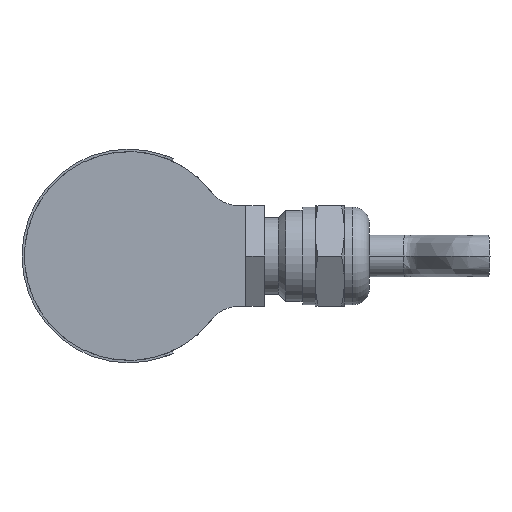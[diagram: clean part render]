
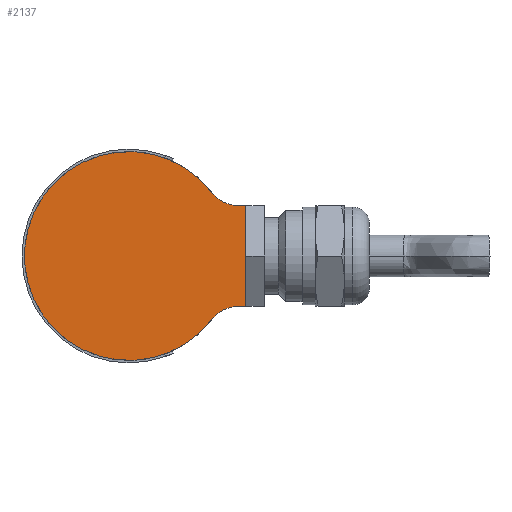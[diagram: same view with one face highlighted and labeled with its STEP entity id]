
A CAD part, left-side view. The second image highlights one B-rep face of the part: STEP entity #2137.
In plain terms, the highlighted planar face has unit normal (-1, 0, 0).
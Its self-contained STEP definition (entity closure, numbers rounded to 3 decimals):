
#113 = CARTESIAN_POINT ( 'NONE',  ( -36.5, 0., 0. ) ) ;
#137 = FACE_OUTER_BOUND ( 'NONE', #3377, .T. ) ;
#178 = ORIENTED_EDGE ( 'NONE', *, *, #3387, .T. ) ;
#214 = ORIENTED_EDGE ( 'NONE', *, *, #4755, .F. ) ;
#357 = CARTESIAN_POINT ( 'NONE',  ( -36.5, -14., 6.05 ) ) ;
#491 = CARTESIAN_POINT ( 'NONE',  ( -36.5, -13.086, 6.05 ) ) ;
#759 = CIRCLE ( 'NONE', #1201, 12.5 ) ;
#880 = AXIS2_PLACEMENT_3D ( 'NONE', #4613, #5377, #2840 ) ;
#940 = PLANE ( 'NONE',  #1943 ) ;
#1037 = DIRECTION ( 'NONE',  ( 1., 0., 0. ) ) ;
#1070 = DIRECTION ( 'NONE',  ( 0., -1., 0. ) ) ;
#1201 = AXIS2_PLACEMENT_3D ( 'NONE', #3977, #1037, #1070 ) ;
#1634 = DIRECTION ( 'NONE',  ( 0., 0., 1. ) ) ;
#1644 = VECTOR ( 'NONE', #1634, 1000. ) ;
#1803 = ORIENTED_EDGE ( 'NONE', *, *, #2686, .F. ) ;
#1943 = AXIS2_PLACEMENT_3D ( 'NONE', #113, #2241, #3905 ) ;
#1949 = CARTESIAN_POINT ( 'NONE',  ( -36.5, -9.914, -7.614 ) ) ;
#1967 = DIRECTION ( 'NONE',  ( 1., 0., 0. ) ) ;
#2029 = DIRECTION ( 'NONE',  ( 0., 1., 0. ) ) ;
#2039 = CARTESIAN_POINT ( 'NONE',  ( -36.5, 12.501, 6.05 ) ) ;
#2137 = ADVANCED_FACE ( 'NONE', ( #137 ), #940, .T. ) ;
#2176 = AXIS2_PLACEMENT_3D ( 'NONE', #3650, #1967, #2029 ) ;
#2241 = DIRECTION ( 'NONE',  ( -1., 0., 0. ) ) ;
#2523 = CARTESIAN_POINT ( 'NONE',  ( -36.5, -13.086, -6.05 ) ) ;
#2534 = CARTESIAN_POINT ( 'NONE',  ( -36.5, -14., 6.05 ) ) ;
#2672 = DIRECTION ( 'NONE',  ( 0., -1., 0. ) ) ;
#2686 = EDGE_CURVE ( 'NONE', #3166, #2968, #759, .T. ) ;
#2777 = VECTOR ( 'NONE', #2672, 1000. ) ;
#2840 = DIRECTION ( 'NONE',  ( 0., 1., 0. ) ) ;
#2843 = EDGE_CURVE ( 'NONE', #4103, #5282, #3281, .T. ) ;
#2875 = CIRCLE ( 'NONE', #880, 4. ) ;
#2968 = VERTEX_POINT ( 'NONE', #4325 ) ;
#2983 = VECTOR ( 'NONE', #3196, 1000. ) ;
#3166 = VERTEX_POINT ( 'NONE', #1949 ) ;
#3196 = DIRECTION ( 'NONE',  ( 0., -1., 0. ) ) ;
#3281 = LINE ( 'NONE', #2534, #1644 ) ;
#3348 = VERTEX_POINT ( 'NONE', #2523 ) ;
#3377 = EDGE_LOOP ( 'NONE', ( #1803, #3744, #4157, #5113, #214, #178 ) ) ;
#3387 = EDGE_CURVE ( 'NONE', #3434, #2968, #5075, .T. ) ;
#3434 = VERTEX_POINT ( 'NONE', #491 ) ;
#3489 = EDGE_CURVE ( 'NONE', #3348, #4103, #3877, .T. ) ;
#3650 = CARTESIAN_POINT ( 'NONE',  ( -36.5, -13.086, 10.05 ) ) ;
#3744 = ORIENTED_EDGE ( 'NONE', *, *, #4347, .T. ) ;
#3877 = LINE ( 'NONE', #3953, #2777 ) ;
#3905 = DIRECTION ( 'NONE',  ( 0., 1., 0. ) ) ;
#3953 = CARTESIAN_POINT ( 'NONE',  ( -36.5, 12.501, -6.05 ) ) ;
#3977 = CARTESIAN_POINT ( 'NONE',  ( -36.5, 0., 0. ) ) ;
#4074 = LINE ( 'NONE', #2039, #2983 ) ;
#4103 = VERTEX_POINT ( 'NONE', #4538 ) ;
#4157 = ORIENTED_EDGE ( 'NONE', *, *, #3489, .T. ) ;
#4325 = CARTESIAN_POINT ( 'NONE',  ( -36.5, -9.914, 7.614 ) ) ;
#4347 = EDGE_CURVE ( 'NONE', #3166, #3348, #2875, .T. ) ;
#4538 = CARTESIAN_POINT ( 'NONE',  ( -36.5, -14., -6.05 ) ) ;
#4613 = CARTESIAN_POINT ( 'NONE',  ( -36.5, -13.086, -10.05 ) ) ;
#4755 = EDGE_CURVE ( 'NONE', #3434, #5282, #4074, .T. ) ;
#5075 = CIRCLE ( 'NONE', #2176, 4. ) ;
#5113 = ORIENTED_EDGE ( 'NONE', *, *, #2843, .T. ) ;
#5282 = VERTEX_POINT ( 'NONE', #357 ) ;
#5377 = DIRECTION ( 'NONE',  ( 1., 0., 0. ) ) ;
